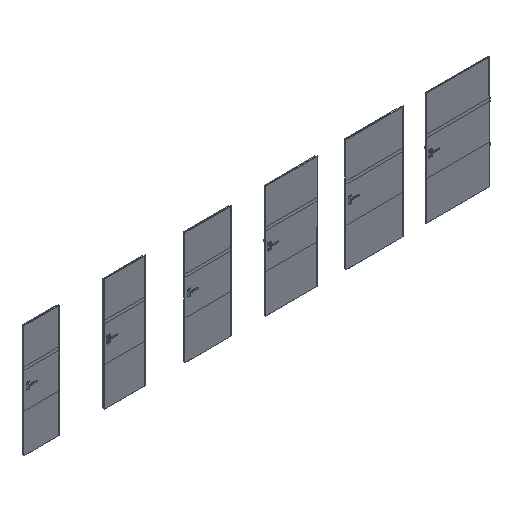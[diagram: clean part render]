
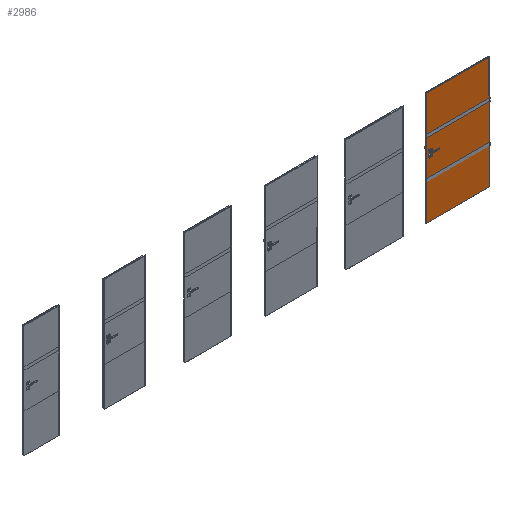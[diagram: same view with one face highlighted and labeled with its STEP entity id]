
A CAD part, isometric view. The second image highlights one B-rep face of the part: STEP entity #2986.
In plain terms, the highlighted planar face has unit normal (0, -1, 0).
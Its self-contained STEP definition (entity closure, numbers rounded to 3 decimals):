
#1816=FACE_OUTER_BOUND('',#5692,.T.);
#2986=ADVANCED_FACE('',(#1816),#4054,.F.);
#4054=PLANE('',#19787);
#5692=EDGE_LOOP('',(#8100,#8101,#8102,#8103));
#8100=ORIENTED_EDGE('',*,*,#14266,.T.);
#8101=ORIENTED_EDGE('',*,*,#14267,.T.);
#8102=ORIENTED_EDGE('',*,*,#14268,.F.);
#8103=ORIENTED_EDGE('',*,*,#14264,.F.);
#12392=VERTEX_POINT('',#29771);
#12393=VERTEX_POINT('',#29773);
#12394=VERTEX_POINT('',#29777);
#12395=VERTEX_POINT('',#29779);
#14264=EDGE_CURVE('',#12392,#12393,#16646,.T.);
#14266=EDGE_CURVE('',#12392,#12394,#16648,.T.);
#14267=EDGE_CURVE('',#12394,#12395,#16649,.T.);
#14268=EDGE_CURVE('',#12393,#12395,#16650,.T.);
#16646=LINE('',#29772,#18218);
#16648=LINE('',#29776,#18220);
#16649=LINE('',#29778,#18221);
#16650=LINE('',#29780,#18222);
#18218=VECTOR('',#22463,1.);
#18220=VECTOR('',#22467,1.);
#18221=VECTOR('',#22468,1.);
#18222=VECTOR('',#22469,1.);
#19787=AXIS2_PLACEMENT_3D('',#29781,#22470,#22471);
#22463=DIRECTION('',(1.,0.,0.));
#22467=DIRECTION('',(0.,0.,-1.));
#22468=DIRECTION('',(1.,0.,0.));
#22469=DIRECTION('',(0.,0.,-1.));
#22470=DIRECTION('',(0.,1.,0.));
#22471=DIRECTION('',(-1.,0.,0.));
#29771=CARTESIAN_POINT('',(6928.,-39.3,2030.));
#29772=CARTESIAN_POINT('',(7178.,-39.3,2030.));
#29773=CARTESIAN_POINT('',(8072.,-39.3,2030.));
#29776=CARTESIAN_POINT('',(6928.,-39.3,2030.));
#29777=CARTESIAN_POINT('',(6928.,-39.3,2.));
#29778=CARTESIAN_POINT('',(7178.,-39.3,2.));
#29779=CARTESIAN_POINT('',(8072.,-39.3,2.));
#29780=CARTESIAN_POINT('',(8072.,-39.3,2030.));
#29781=CARTESIAN_POINT('',(7178.,-39.3,2030.));
